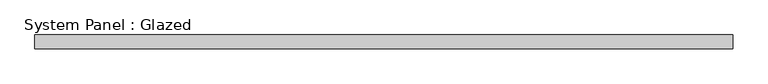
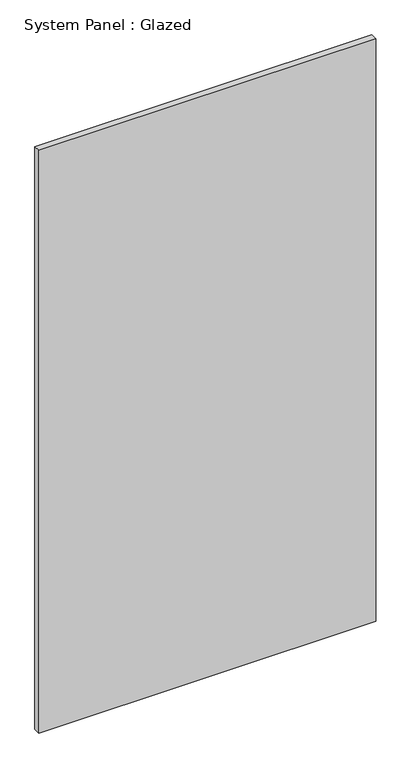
"""IFC4 building model written with IfcOpenShell, lengths in millimetres: plate geometry, System Panel : Glazed."""

from ifc_helpers import new_model, si_unit, origin, origin_with_axes, place, context, project, spatial, polyline, outline, extrude, source, transform, mapped, element, save


def system_panel_glazed_7f340023(model_context):
    return source(origin(), model_context, "Body", "SweptSolid", [
        extrude(outline(polyline([(640.9972222, 19.05), (-640.9972222, 19.05), (-640.9972222, 44.45), (640.9972222, 44.45), (640.9972222, 19.05)])), origin_with_axes(), (0.0, 0.0, 1.0), 2343.15),
    ])


if __name__ == "__main__":
    model = new_model("IFC4")
    model_context = context("Model", 3, world=origin())
    ifc_project = project(units=[si_unit("LENGTHUNIT", "METRE", prefix="MILLI")], contexts=[model_context])
    site = spatial("IfcSite", under=ifc_project)
    building = spatial("IfcBuilding", under=site)
    placement = place(None, origin())
    system_panel_glazed_shape = system_panel_glazed_7f340023(model_context)
    element("IfcPlate", 1, ObjectType="System Panel : Glazed", at=placement, inside=building, context=model_context, shape_type="MappedRepresentation", body=[
        mapped(system_panel_glazed_shape, transform((0.0, 0.0, 0.0), x_axis=(1.0, 0.0, 0.0), y_axis=(0.0, 1.0, 0.0), z_axis=(0.0, 0.0, 1.0))),
    ])
    save(model, "model.ifc")
